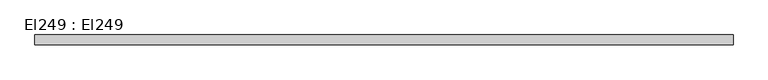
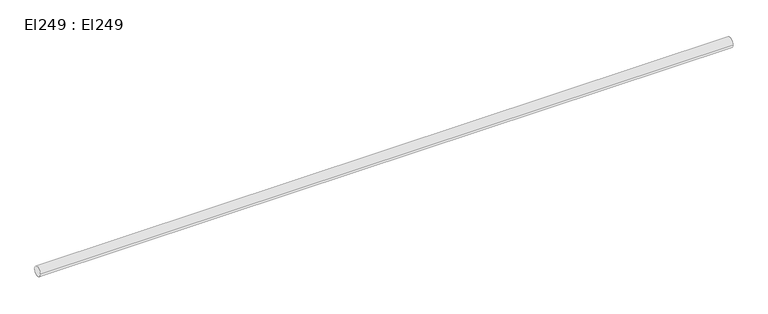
"""IFC4 building model written with IfcOpenShell, lengths in millimetres: cable carrier segment geometry, El249 : El249."""

from ifc_helpers import new_model, si_unit, point, frame, frame_2d, origin, place, context, project, spatial, circle_curve, trimmed, segment, composite_curve, outline, extrude, source, transform, mapped, element, save


def el249_el249_4a4dd267(model_context):
    return source(origin(), model_context, "Body", "SweptSolid", [
        extrude(outline(composite_curve([segment(trimmed(circle_curve(frame_2d((25484.6, 2950.0)), 12.0), [point((25472.6, 2950.0))], [point((25496.6, 2950.0))], False, "CARTESIAN"), True, "CONTINUOUS"), segment(trimmed(circle_curve(frame_2d((25484.6, 2950.0)), 12.0), [point((25496.6, 2950.0))], [point((25472.6, 2950.0))], False, "CARTESIAN"), True, "CONTINUOUS")], self_intersect=False)), frame((9626.1, 0.0, 0.0), z_axis=(1.0, 0.0, 0.0), x_axis=(0.0, 1.0, 0.0)), (0.0, 0.0, 1.0), 1700.0),
    ])


if __name__ == "__main__":
    model = new_model("IFC4")
    model_context = context("Model", 3, world=origin())
    ifc_project = project(units=[si_unit("LENGTHUNIT", "METRE", prefix="MILLI")], contexts=[model_context])
    site = spatial("IfcSite", under=ifc_project)
    building = spatial("IfcBuilding", under=site)
    placement = place(None, origin())
    el249_el249_shape = el249_el249_4a4dd267(model_context)
    element("IfcCableCarrierSegment", 1, ObjectType="El249 : El249", at=placement, inside=building, context=model_context, shape_type="MappedRepresentation", body=[
        mapped(el249_el249_shape, transform((0.0, 0.0, 0.0), x_axis=(1.0, 0.0, 0.0), y_axis=(0.0, 1.0, 0.0), z_axis=(0.0, 0.0, 1.0))),
    ])
    save(model, "model.ifc")
